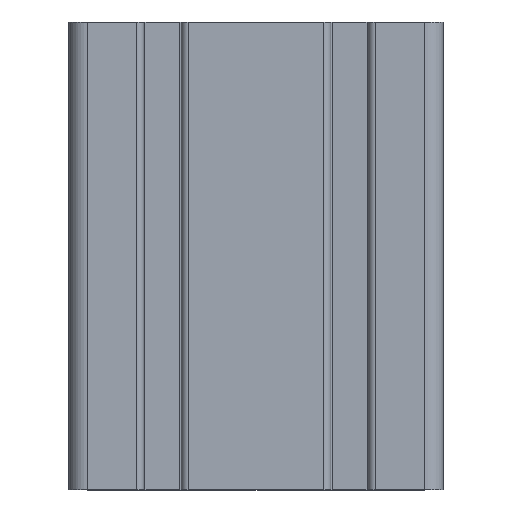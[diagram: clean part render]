
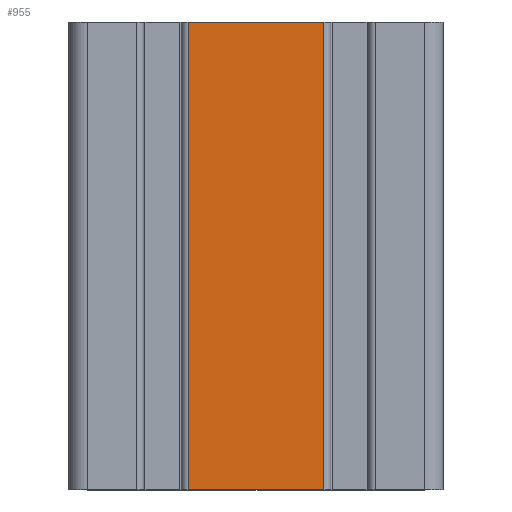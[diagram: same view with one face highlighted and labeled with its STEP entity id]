
A CAD part, top view. The second image highlights one B-rep face of the part: STEP entity #955.
In plain terms, the highlighted planar face has unit normal (0, 0, 1).
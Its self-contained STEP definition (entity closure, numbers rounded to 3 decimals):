
#42 = DIRECTION ( 'NONE',  ( 0., -1., 0. ) ) ;
#850 = CARTESIAN_POINT ( 'NONE',  ( 14.5, -50., 20. ) ) ;
#955 = ADVANCED_FACE ( 'NONE', ( #3385 ), #1154, .F. ) ;
#1154 = PLANE ( 'NONE',  #3778 ) ;
#1257 = CARTESIAN_POINT ( 'NONE',  ( 14.5, 50., 20. ) ) ;
#1527 = VERTEX_POINT ( 'NONE', #2629 ) ;
#1597 = DIRECTION ( 'NONE',  ( 1., 0., 0. ) ) ;
#1605 = DIRECTION ( 'NONE',  ( 1., 0., 0. ) ) ;
#1606 = CARTESIAN_POINT ( 'NONE',  ( 14.5, 50., 20. ) ) ;
#1685 = VERTEX_POINT ( 'NONE', #1606 ) ;
#1756 = ORIENTED_EDGE ( 'NONE', *, *, #2456, .F. ) ;
#1960 = CARTESIAN_POINT ( 'NONE',  ( -14.5, 50., 20. ) ) ;
#2101 = ORIENTED_EDGE ( 'NONE', *, *, #5206, .T. ) ;
#2419 = VECTOR ( 'NONE', #1597, 1000. ) ;
#2456 = EDGE_CURVE ( 'NONE', #3911, #1685, #4651, .T. ) ;
#2629 = CARTESIAN_POINT ( 'NONE',  ( -14.5, -50., 20. ) ) ;
#2649 = LINE ( 'NONE', #6301, #5071 ) ;
#2760 = DIRECTION ( 'NONE',  ( -1., 0., 0. ) ) ;
#3385 = FACE_OUTER_BOUND ( 'NONE', #4156, .T. ) ;
#3562 = VECTOR ( 'NONE', #42, 1000. ) ;
#3778 = AXIS2_PLACEMENT_3D ( 'NONE', #6379, #5744, #2760 ) ;
#3911 = VERTEX_POINT ( 'NONE', #1960 ) ;
#4114 = ORIENTED_EDGE ( 'NONE', *, *, #4940, .T. ) ;
#4121 = LINE ( 'NONE', #1257, #3562 ) ;
#4156 = EDGE_LOOP ( 'NONE', ( #4114, #7744, #1756, #2101 ) ) ;
#4503 = CARTESIAN_POINT ( 'NONE',  ( -14.5, -50., 20. ) ) ;
#4651 = LINE ( 'NONE', #7762, #2419 ) ;
#4663 = EDGE_CURVE ( 'NONE', #1685, #5468, #4121, .T. ) ;
#4940 = EDGE_CURVE ( 'NONE', #1527, #5468, #5767, .T. ) ;
#5006 = DIRECTION ( 'NONE',  ( 0., -1., 0. ) ) ;
#5071 = VECTOR ( 'NONE', #5006, 1000. ) ;
#5206 = EDGE_CURVE ( 'NONE', #3911, #1527, #2649, .T. ) ;
#5468 = VERTEX_POINT ( 'NONE', #850 ) ;
#5569 = VECTOR ( 'NONE', #1605, 1000. ) ;
#5744 = DIRECTION ( 'NONE',  ( 0., 0., -1. ) ) ;
#5767 = LINE ( 'NONE', #4503, #5569 ) ;
#6301 = CARTESIAN_POINT ( 'NONE',  ( -14.5, 50., 20. ) ) ;
#6379 = CARTESIAN_POINT ( 'NONE',  ( -14.5, 50., 20. ) ) ;
#7744 = ORIENTED_EDGE ( 'NONE', *, *, #4663, .F. ) ;
#7762 = CARTESIAN_POINT ( 'NONE',  ( -14.5, 50., 20. ) ) ;
